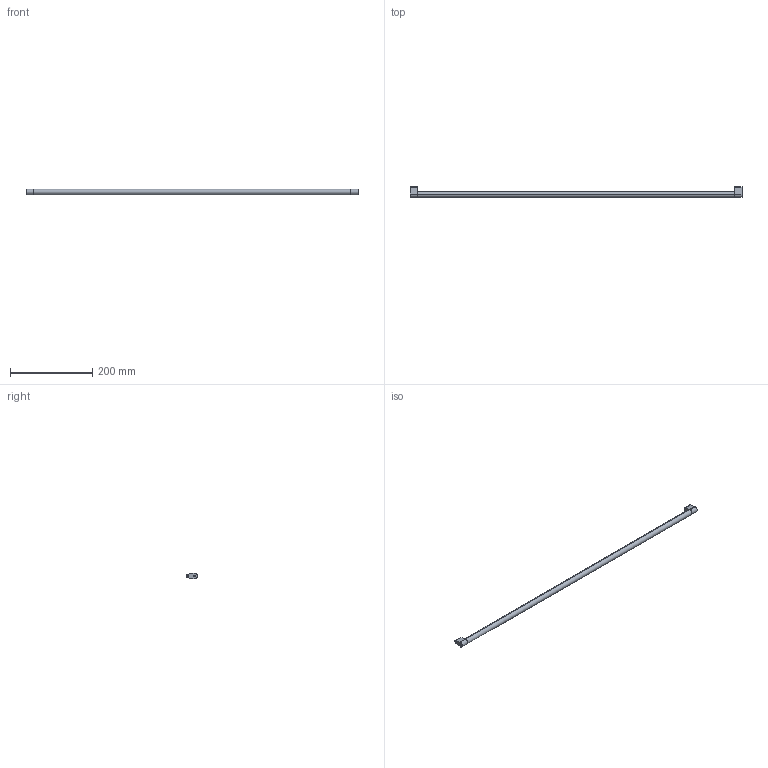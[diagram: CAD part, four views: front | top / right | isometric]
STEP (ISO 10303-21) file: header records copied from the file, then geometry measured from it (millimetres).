
FILE_DESCRIPTION (( 'STEP AP214' ), '1' );
FILE_NAME ('_Synchronisationseinheit Nova Pro KAB900_S19.step', '2010-07-08T13:58:48', ( 'grass' ), ( '' ), 'SwSTEP 2.0', 'SolidWorks 2010', '' );
FILE_SCHEMA (( 'AUTOMOTIVE_DESIGN' ));
Length unit declared in the file: millimetre
Products named in the file (1): _Synchronisationseinheit Nova Pro KAB900_S19
Bounding box: 809 x 26.5 x 14 mm (x, y, z)
Volume: 128222.7 mm3; surface area: 38428.7 mm2
Topology: 3 solids, 3 shells, 36 faces, 78 edges, 52 vertices
Faces by surface type: cylinder 18, plane 18
Entity records: 1050 total; most frequent: DIRECTION 188, CARTESIAN_POINT 167, ORIENTED_EDGE 156, EDGE_CURVE 78, AXIS2_PLACEMENT_3D 73, VERTEX_POINT 52, VECTOR 42, LINE 42
